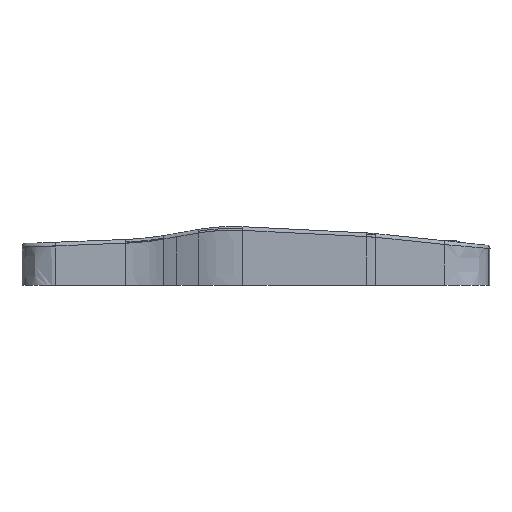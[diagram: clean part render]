
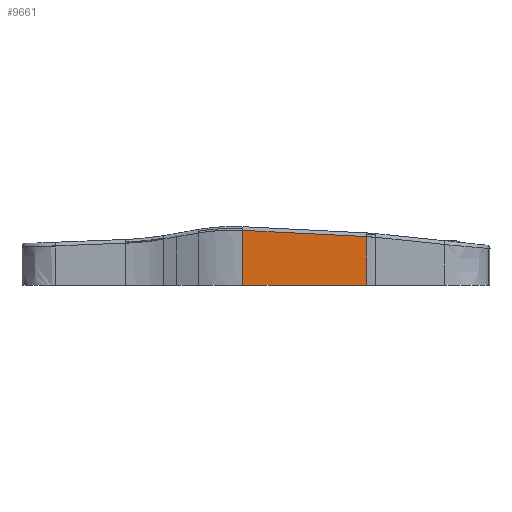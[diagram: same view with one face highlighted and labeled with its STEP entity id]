
A CAD part, front view. The second image highlights one B-rep face of the part: STEP entity #9661.
In plain terms, the highlighted planar face has unit normal (0, -1, 0).
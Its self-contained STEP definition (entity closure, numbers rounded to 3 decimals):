
#9599=VECTOR('Line Direction',#9598,1.) ;
#9629=VECTOR('Line Direction',#9628,1.) ;
#9638=VECTOR('Line Direction',#9637,1.) ;
#9645=VECTOR('Line Direction',#9644,1.) ;
#9650=VECTOR('Line Direction',#9649,1.) ;
#9598=DIRECTION('Vector Direction',(0.,0.,1.)) ;
#9623=DIRECTION('Axis2P3D Direction',(0.,-1.,0.)) ;
#9624=DIRECTION('Axis2P3D XDirection',(1.,0.,0.)) ;
#9628=DIRECTION('Vector Direction',(0.999,0.,-0.05)) ;
#9637=DIRECTION('Vector Direction',(0.,0.,1.)) ;
#9644=DIRECTION('Vector Direction',(0.,0.,1.)) ;
#9649=DIRECTION('Vector Direction',(0.,0.,1.)) ;
#5638=CARTESIAN_POINT('Vertex',(1035.423,-925.047,371.135)) ;
#5642=CARTESIAN_POINT('Control Point',(912.09,-925.048,371.139)) ;
#5643=CARTESIAN_POINT('Control Point',(919.336,-925.048,371.139)) ;
#5644=CARTESIAN_POINT('Control Point',(926.582,-925.048,371.139)) ;
#5645=CARTESIAN_POINT('Control Point',(933.827,-925.048,371.138)) ;
#5646=CARTESIAN_POINT('Control Point',(941.227,-925.047,371.138)) ;
#5647=CARTESIAN_POINT('Control Point',(948.627,-925.047,371.138)) ;
#5648=CARTESIAN_POINT('Control Point',(948.782,-925.048,371.138)) ;
#5649=CARTESIAN_POINT('Control Point',(949.09,-925.048,371.138)) ;
#5650=CARTESIAN_POINT('Control Point',(949.398,-925.048,371.138)) ;
#5651=CARTESIAN_POINT('Control Point',(949.552,-925.047,371.138)) ;
#5652=CARTESIAN_POINT('Control Point',(951.865,-925.047,371.138)) ;
#5653=CARTESIAN_POINT('Control Point',(954.177,-925.047,371.138)) ;
#5654=CARTESIAN_POINT('Control Point',(956.336,-925.047,371.138)) ;
#5655=CARTESIAN_POINT('Control Point',(958.648,-925.047,371.138)) ;
#5656=CARTESIAN_POINT('Control Point',(960.961,-925.047,371.138)) ;
#5657=CARTESIAN_POINT('Control Point',(961.115,-925.048,371.138)) ;
#5658=CARTESIAN_POINT('Control Point',(961.423,-925.048,371.138)) ;
#5659=CARTESIAN_POINT('Control Point',(961.731,-925.048,371.138)) ;
#5660=CARTESIAN_POINT('Control Point',(961.886,-925.047,371.138)) ;
#5661=CARTESIAN_POINT('Control Point',(964.198,-925.047,371.138)) ;
#5662=CARTESIAN_POINT('Control Point',(966.511,-925.047,371.137)) ;
#5663=CARTESIAN_POINT('Control Point',(968.669,-925.047,371.137)) ;
#5664=CARTESIAN_POINT('Control Point',(970.981,-925.047,371.137)) ;
#5665=CARTESIAN_POINT('Control Point',(973.294,-925.047,371.137)) ;
#5666=CARTESIAN_POINT('Control Point',(973.448,-925.048,371.137)) ;
#5667=CARTESIAN_POINT('Control Point',(973.756,-925.048,371.137)) ;
#5668=CARTESIAN_POINT('Control Point',(974.065,-925.048,371.137)) ;
#5669=CARTESIAN_POINT('Control Point',(974.219,-925.047,371.137)) ;
#5670=CARTESIAN_POINT('Control Point',(976.531,-925.047,371.137)) ;
#5671=CARTESIAN_POINT('Control Point',(978.844,-925.047,371.137)) ;
#5672=CARTESIAN_POINT('Control Point',(981.002,-925.047,371.137)) ;
#5673=CARTESIAN_POINT('Control Point',(983.315,-925.047,371.137)) ;
#5674=CARTESIAN_POINT('Control Point',(985.627,-925.047,371.137)) ;
#5675=CARTESIAN_POINT('Control Point',(985.781,-925.048,371.137)) ;
#5676=CARTESIAN_POINT('Control Point',(986.09,-925.048,371.137)) ;
#5677=CARTESIAN_POINT('Control Point',(986.398,-925.048,371.137)) ;
#5678=CARTESIAN_POINT('Control Point',(986.552,-925.047,371.137)) ;
#5679=CARTESIAN_POINT('Control Point',(988.865,-925.047,371.137)) ;
#5680=CARTESIAN_POINT('Control Point',(991.177,-925.047,371.137)) ;
#5681=CARTESIAN_POINT('Control Point',(993.335,-925.047,371.137)) ;
#5682=CARTESIAN_POINT('Control Point',(995.648,-925.047,371.137)) ;
#5683=CARTESIAN_POINT('Control Point',(997.96,-925.047,371.137)) ;
#5684=CARTESIAN_POINT('Control Point',(998.115,-925.048,371.137)) ;
#5685=CARTESIAN_POINT('Control Point',(998.423,-925.048,371.136)) ;
#5686=CARTESIAN_POINT('Control Point',(998.731,-925.048,371.136)) ;
#5687=CARTESIAN_POINT('Control Point',(998.885,-925.047,371.136)) ;
#5688=CARTESIAN_POINT('Control Point',(1001.198,-925.047,371.136)) ;
#5689=CARTESIAN_POINT('Control Point',(1003.51,-925.047,371.136)) ;
#5690=CARTESIAN_POINT('Control Point',(1005.669,-925.047,371.136)) ;
#5691=CARTESIAN_POINT('Control Point',(1007.981,-925.047,371.136)) ;
#5692=CARTESIAN_POINT('Control Point',(1010.294,-925.047,371.136)) ;
#5693=CARTESIAN_POINT('Control Point',(1010.448,-925.048,371.136)) ;
#5694=CARTESIAN_POINT('Control Point',(1010.756,-925.048,371.136)) ;
#5695=CARTESIAN_POINT('Control Point',(1011.064,-925.048,371.136)) ;
#5696=CARTESIAN_POINT('Control Point',(1011.219,-925.047,371.136)) ;
#5697=CARTESIAN_POINT('Control Point',(1013.531,-925.047,371.136)) ;
#5698=CARTESIAN_POINT('Control Point',(1015.844,-925.047,371.136)) ;
#5699=CARTESIAN_POINT('Control Point',(1018.002,-925.047,371.136)) ;
#5700=CARTESIAN_POINT('Control Point',(1020.314,-925.047,371.136)) ;
#5701=CARTESIAN_POINT('Control Point',(1022.627,-925.047,371.136)) ;
#5702=CARTESIAN_POINT('Control Point',(1022.781,-925.048,371.136)) ;
#5703=CARTESIAN_POINT('Control Point',(1023.089,-925.048,371.136)) ;
#5704=CARTESIAN_POINT('Control Point',(1023.398,-925.048,371.136)) ;
#5705=CARTESIAN_POINT('Control Point',(1023.552,-925.047,371.136)) ;
#5706=CARTESIAN_POINT('Control Point',(1025.864,-925.047,371.136)) ;
#5707=CARTESIAN_POINT('Control Point',(1028.177,-925.047,371.136)) ;
#5708=CARTESIAN_POINT('Control Point',(1030.335,-925.047,371.136)) ;
#5709=CARTESIAN_POINT('Control Point',(1032.648,-925.047,371.135)) ;
#5710=CARTESIAN_POINT('Control Point',(1034.96,-925.047,371.135)) ;
#5711=CARTESIAN_POINT('Control Point',(1035.114,-925.048,371.135)) ;
#5712=CARTESIAN_POINT('Control Point',(1035.268,-925.048,371.135)) ;
#5713=CARTESIAN_POINT('Control Point',(1035.423,-925.048,371.135)) ;
#5714=CARTESIAN_POINT('Vertex',(912.09,-925.048,371.139)) ;
#9597=CARTESIAN_POINT('Line Origine',(1035.423,-925.047,376.135)) ;
#9601=CARTESIAN_POINT('Vertex',(1035.424,-925.047,419.759)) ;
#9622=CARTESIAN_POINT('Axis2P3D Location',(912.09,-925.048,376.139)) ;
#9627=CARTESIAN_POINT('Line Origine',(973.758,-925.047,422.921)) ;
#9631=CARTESIAN_POINT('Vertex',(912.092,-925.048,426.007)) ;
#9633=CARTESIAN_POINT('Vertex',(1035.424,-925.047,419.836)) ;
#9636=CARTESIAN_POINT('Line Origine',(912.092,-925.048,425.971)) ;
#9640=CARTESIAN_POINT('Vertex',(912.092,-925.048,425.935)) ;
#9643=CARTESIAN_POINT('Line Origine',(912.091,-925.048,398.537)) ;
#9648=CARTESIAN_POINT('Line Origine',(1035.424,-925.047,419.798)) ;
#9625=AXIS2_PLACEMENT_3D('Plane Axis2P3D',#9622,#9623,#9624) ;
#5716=EDGE_CURVE('',#5715,#5639,#5641,.T.) ;
#9603=EDGE_CURVE('',#5639,#9602,#9600,.T.) ;
#9635=EDGE_CURVE('',#9632,#9634,#9630,.T.) ;
#9642=EDGE_CURVE('',#9641,#9632,#9639,.T.) ;
#9647=EDGE_CURVE('',#5715,#9641,#9646,.T.) ;
#9652=EDGE_CURVE('',#9602,#9634,#9651,.T.) ;
#9626=PLANE('',#9625) ;
#9654=ORIENTED_EDGE('',*,*,#9635,.F.) ;
#9655=ORIENTED_EDGE('',*,*,#9642,.F.) ;
#9656=ORIENTED_EDGE('',*,*,#9647,.F.) ;
#9657=ORIENTED_EDGE('',*,*,#5716,.T.) ;
#9658=ORIENTED_EDGE('',*,*,#9603,.T.) ;
#9659=ORIENTED_EDGE('',*,*,#9652,.T.) ;
#9600=LINE('Line',#9597,#9599) ;
#9630=LINE('Line',#9627,#9629) ;
#9639=LINE('Line',#9636,#9638) ;
#9646=LINE('Line',#9643,#9645) ;
#9651=LINE('Line',#9648,#9650) ;
#9661=ADVANCED_FACE('SHT0018182-2.0\X2\5EA776C6\X0\ CNC\X2\9A8C8BC153D16CE1821290026027\X0\-\X2\57FA5EA7\X0\',(#9660),#9626,.T.) ;
#5639=VERTEX_POINT('',#5638) ;
#5715=VERTEX_POINT('',#5714) ;
#9602=VERTEX_POINT('',#9601) ;
#9632=VERTEX_POINT('',#9631) ;
#9634=VERTEX_POINT('',#9633) ;
#9641=VERTEX_POINT('',#9640) ;
#5641=B_SPLINE_CURVE_WITH_KNOTS('',5,(#5642,#5643,#5644,#5645,#5646,#5647,#5648,#5649,#5650,#5651,#5652,#5653,#5654,#5655,#5656,#5657,#5658,#5659,#5660,#5661,#5662,#5663,#5664,#5665,#5666,#5667,#5668,#5669,#5670,#5671,#5672,#5673,#5674,#5675,#5676,#5677,#5678,#5679,#5680,#5681,#5682,#5683,#5684,#5685,#5686,#5687,#5688,#5689,#5690,#5691,#5692,#5693,#5694,#5695,#5696,#5697,#5698,#5699,#5700,#5701,#5702,#5703,#5704,#5705,#5706,#5707,#5708,#5709,#5710,#5711,#5712,#5713),.UNSPECIFIED.,.F.,.U.,(6,3,3,3,3,3,3,3,3,3,3,3,3,3,3,3,3,3,3,3,3,3,3,6),(0.,51.235,52.326,53.416,68.677,69.767,70.857,86.119,87.209,88.299,103.561,104.651,105.741,121.003,122.093,123.183,138.445,139.535,140.625,155.886,156.977,158.067,173.328,174.418),.UNSPECIFIED.) ;
#9653=EDGE_LOOP('',(#9654,#9655,#9656,#9657,#9658,#9659)) ;
#9660=FACE_OUTER_BOUND('',#9653,.T.) ;
